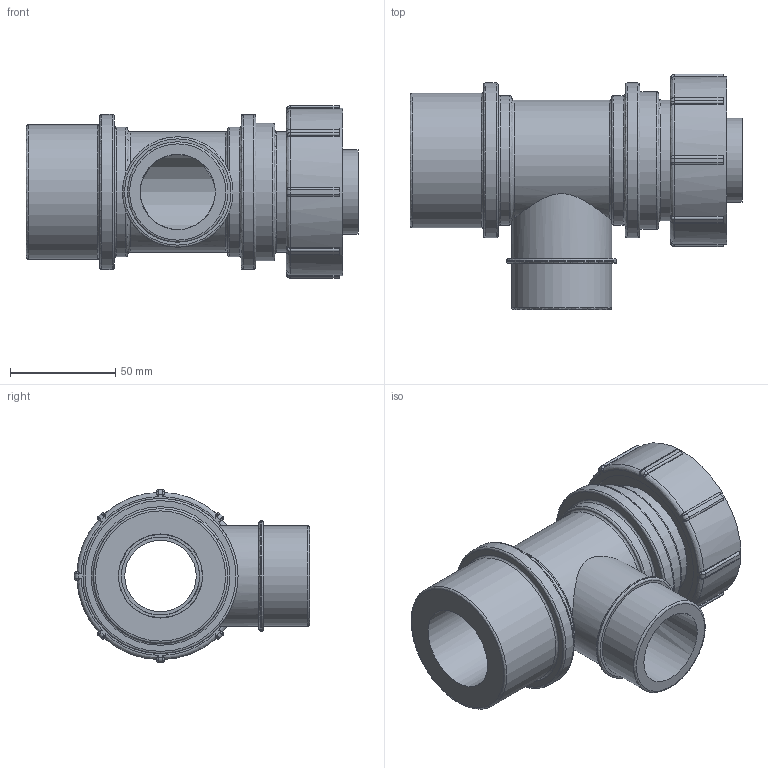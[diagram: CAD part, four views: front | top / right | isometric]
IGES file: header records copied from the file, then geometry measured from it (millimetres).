
Global section: file name: 0784L60400150A.ipt; native system: Autodesk Inventor 2015; preprocessor: unknown; author: KIM; date: 20180409.130817; units: millimetre
Bounding box: 158 x 112 x 82 mm (x, y, z)
Volume: 366374.6 mm3; surface area: 77474.5 mm2
Topology: 1 solids, 1 shells, 167 faces, 433 edges, 280 vertices
Faces by surface type: revolution 63, cylinder 54, plane 50
Full cylindrical faces by diameter (mm): 40 x1, 47.803 x2, 52.583 x1, 57.4 x1, 61.5 x2, 64 x1, 65.6 x1, 73.8 x2, 79.54 x1
